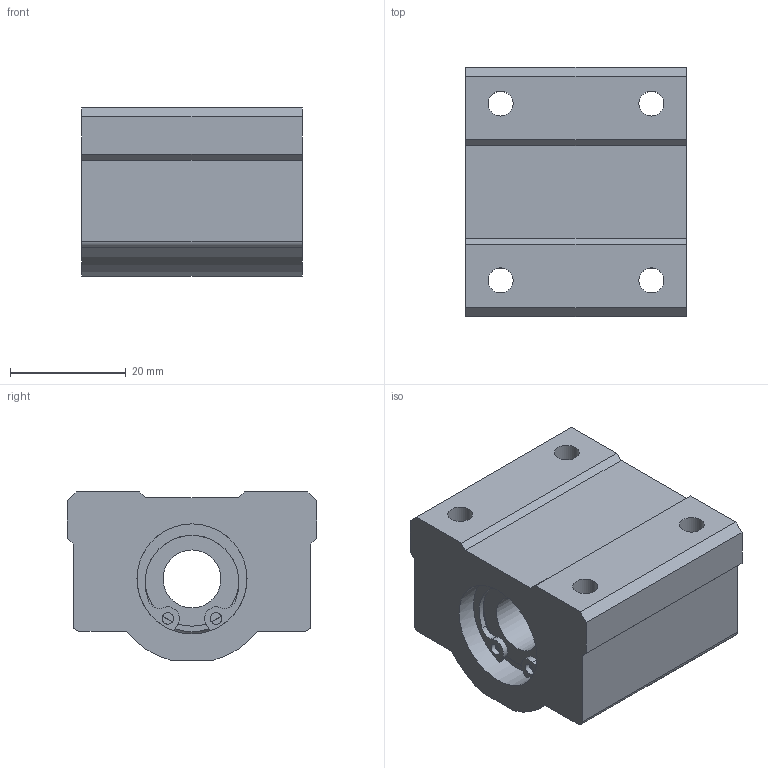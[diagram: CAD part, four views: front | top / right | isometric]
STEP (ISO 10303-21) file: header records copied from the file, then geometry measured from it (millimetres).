
FILE_DESCRIPTION((''),'2;1');
FILE_NAME('D:\製品 (図面)\カタログ用3D\リニアベアリング関連(改)\STEP形式\LH\LH10.stp','2010-01-25T10:14:17',('Tsuchiya'),(''),'Autodesk Inventor 10','Autodesk Inventor 10','');
FILE_SCHEMA(('AUTOMOTIVE_DESIGN { 1 0 10303 214 1 1 1 1 }'));
Length unit declared in the file: millimetre
Products named in the file (1): LH10
Bounding box: 38 x 43 x 29 mm (x, y, z)
Volume: 34330.9 mm3; surface area: 10498.1 mm2
Topology: 1 solids, 3 shells, 81 faces, 223 edges, 142 vertices
Faces by surface type: plane 41, cylinder 20, bspline 18, torus 2
Full cylindrical faces by diameter (mm): 2 x2, 10 x1, 16.3 x2, 18 x2, 19 x4
Entity records: 2548 total; most frequent: CARTESIAN_POINT 598, DIRECTION 416, ORIENTED_EDGE 368, EDGE_CURVE 184, AXIS2_PLACEMENT_3D 168, VERTEX_POINT 124, EDGE_LOOP 122, CIRCLE 104
